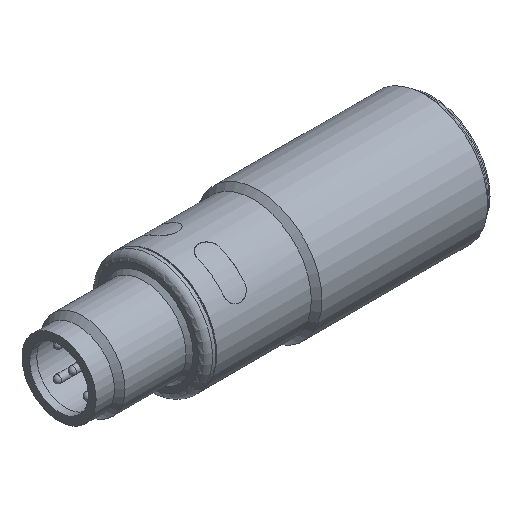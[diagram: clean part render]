
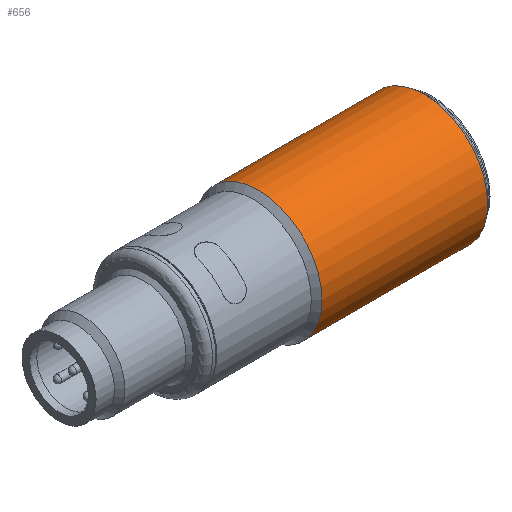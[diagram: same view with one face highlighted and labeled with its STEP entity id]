
A CAD part, isometric view. The second image highlights one B-rep face of the part: STEP entity #656.
In plain terms, the highlighted cylindrical face has radius 9 mm (diameter 18 mm), a full revolution.
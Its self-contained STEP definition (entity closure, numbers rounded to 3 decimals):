
#86=CYLINDRICAL_SURFACE('',#751,9.);
#154=FACE_BOUND('',#282,.T.);
#203=FACE_OUTER_BOUND('',#281,.T.);
#281=EDGE_LOOP('',(#594));
#282=EDGE_LOOP('',(#595));
#338=CIRCLE('',#750,9.);
#339=CIRCLE('',#752,9.);
#395=VERTEX_POINT('',#2716);
#396=VERTEX_POINT('',#2719);
#464=EDGE_CURVE('',#395,#395,#338,.T.);
#465=EDGE_CURVE('',#396,#396,#339,.T.);
#594=ORIENTED_EDGE('',*,*,#465,.F.);
#595=ORIENTED_EDGE('',*,*,#464,.T.);
#656=ADVANCED_FACE('',(#203,#154),#86,.T.);
#750=AXIS2_PLACEMENT_3D('',#2717,#934,#935);
#751=AXIS2_PLACEMENT_3D('',#2718,#936,#937);
#752=AXIS2_PLACEMENT_3D('',#2720,#938,#939);
#934=DIRECTION('center_axis',(1.,0.,0.));
#935=DIRECTION('ref_axis',(0.,1.,0.));
#936=DIRECTION('center_axis',(1.,0.,0.));
#937=DIRECTION('ref_axis',(0.,1.,0.));
#938=DIRECTION('center_axis',(1.,0.,0.));
#939=DIRECTION('ref_axis',(0.,1.,0.));
#2716=CARTESIAN_POINT('',(-22.776,9.,0.));
#2717=CARTESIAN_POINT('Origin',(-22.776,0.,
0.));
#2718=CARTESIAN_POINT('Origin',(-11.026,0.,
0.));
#2719=CARTESIAN_POINT('',(0.724,9.,0.));
#2720=CARTESIAN_POINT('Origin',(0.724,0.,
0.));
